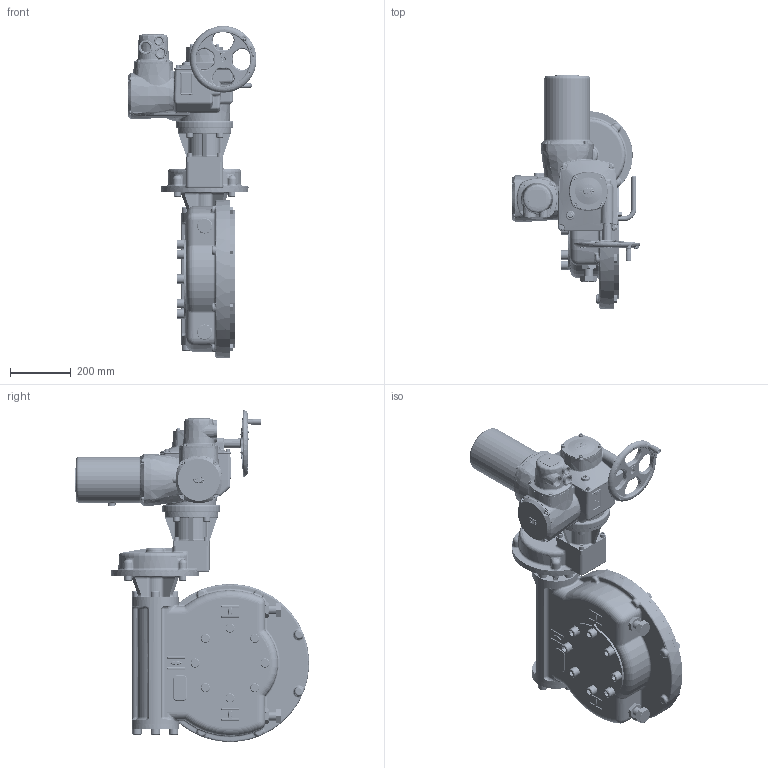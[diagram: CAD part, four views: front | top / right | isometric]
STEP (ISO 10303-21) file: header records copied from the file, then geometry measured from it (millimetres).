
FILE_DESCRIPTION(/* description */ ('Unknown'),/* implementation_level */ '2;1');
FILE_NAME(/* name */ 'A3W8RLSS00X-1',/* time_stamp */ '2018-05-15T10:46:14+02:00',/* author */ ('Unknown'),/* organization */ ('Unknown'),/* preprocessor_version */ 'ST-DEVELOPER v16.7',/* originating_system */ 'DEX',/* authorisation */ $);
FILE_SCHEMA (('AUTOMOTIVE_DESIGN {1 0 10303 214 3 1 1}'));
Length unit declared in the file: millimetre
Products named in the file (4): A3W8RLSS00X-1; CK250&500 F14 NON THRUST BASE; M16x40; IW8-FA14-FA25
Assembly tree (6 placements, depth 2):
  A3W8RLSS00X-1
    CK250&500 F14 NON THRUST BASE
    M16x40  x4
    IW8-FA14-FA25
Bounding box: 424.36 x 770.75 x 1092.65 mm (x, y, z)
Volume: 58101917 mm3; surface area: 2025593.4 mm2
Topology: 6 solids, 38 shells, 5761 faces, 14197 edges, 8723 vertices
Faces by surface type: plane 2530, bspline 1570, cylinder 757, torus 427, cone 360, sphere 117
Full cylindrical faces by diameter (mm): 3 x2, 4.917 x9, 6.45 x1, 6.47 x1, 6.647 x12, 7 x2, 8 x4, 8.2 x1, 10 x16, 10.22 x4, 10.5 x4, 13 x10, 13.25 x4, 13.5 x9, 13.835 x14, 14 x1, 15.5 x1, 16 x20, 16.1 x1, 16.5 x4, 17 x16, 18 x4, 18.376 x1, 18.5 x4, 19 x1, 20 x13, 20.5 x4, 21 x8, 23.376 x1, 24 x8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
Entity records: 266415 total; most frequent: CARTESIAN_POINT 112174, ORIENTED_EDGE 26274, DIRECTION 18145, EDGE_CURVE 13137, VERTEX_POINT 8409, AXIS2_PLACEMENT_3D 7071, FACE_BOUND 6666, EDGE_LOOP 6629
